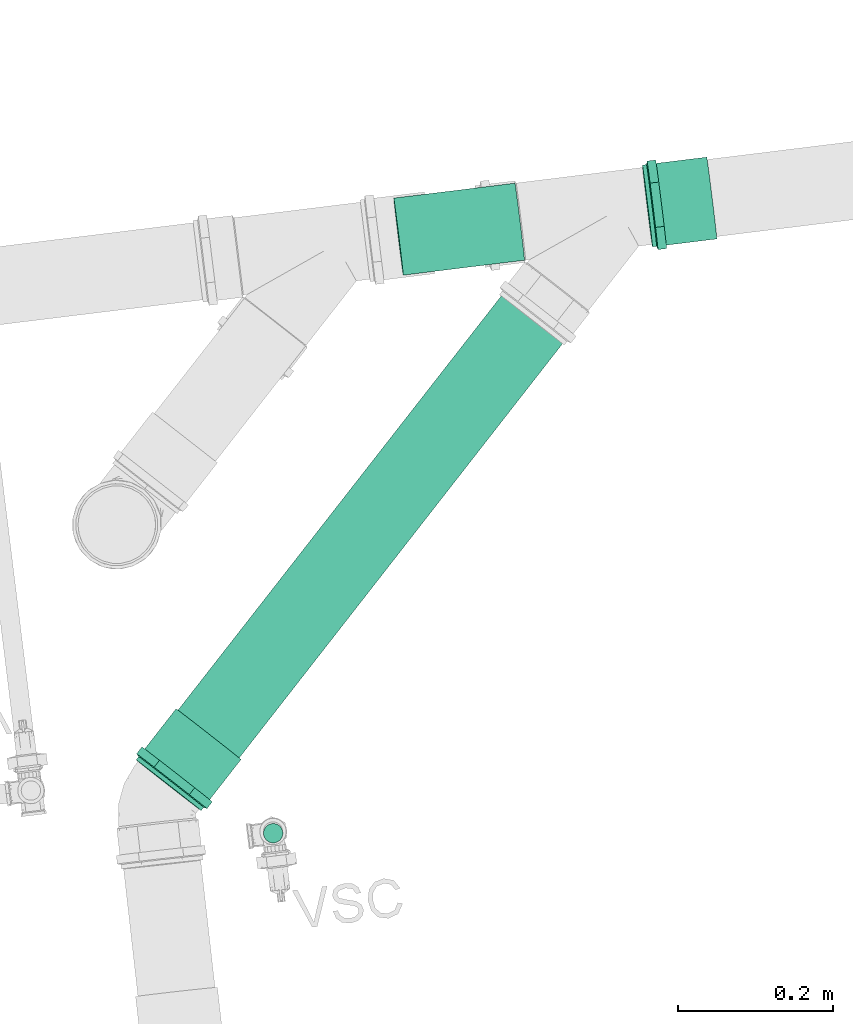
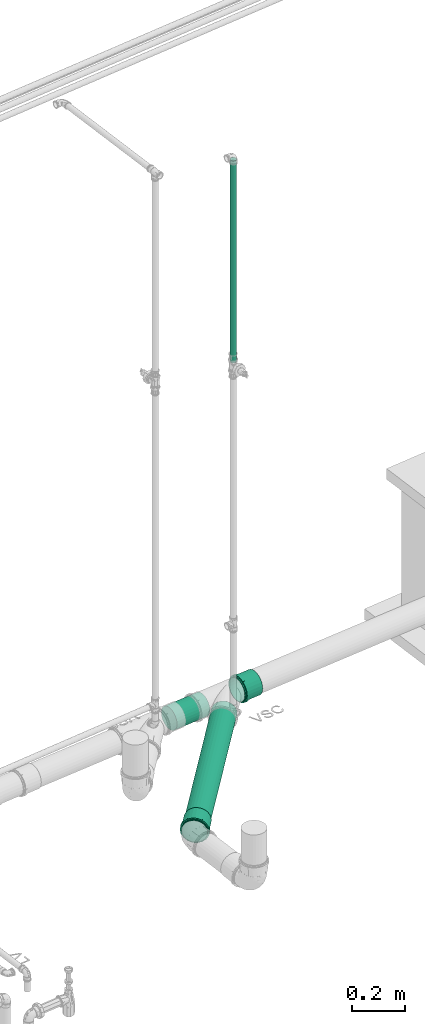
# One storey, part 30 of 97: 3 flow segments, 2 flow fittings.
"""IFC2X3 building model written with IfcOpenShell, lengths in centimetres."""

from ifc_helpers import new_model, entity, si_unit, converted_unit, derived_unit, direction, frame, frame_2d, origin, origin_2d_with_axis, place, context, subcontext, project, spatial, circle, extrude, faceted_brep, source, transform, mapped, material, type_object, type_shapes, element, save


model = new_model("IFC2X3")

# Units and contexts
model_context = context("Model", 3, precision=0.001, world=origin(), true_north=direction((6.12303176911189e-17, 1.0)))
body_context = subcontext(model_context, "Body", "Model", "MODEL_VIEW")
ifc_project = project(units=[si_unit("LENGTHUNIT", "METRE", prefix="CENTI"), si_unit("AREAUNIT", "SQUARE_METRE"), si_unit("VOLUMEUNIT", "CUBIC_METRE"), converted_unit("PLANEANGLEUNIT", "DEGREE", entity("IfcRatioMeasure", 0.0174532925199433), si_unit("PLANEANGLEUNIT", "RADIAN"), dimensions=[0, 0, 0, 0, 0, 0, 0]), si_unit("MASSUNIT", "GRAM", prefix="KILO"), derived_unit("MASSDENSITYUNIT", [(si_unit("MASSUNIT", "GRAM", prefix="KILO"), 1), (si_unit("LENGTHUNIT", "METRE"), -3)]), derived_unit("MOMENTOFINERTIAUNIT", [(si_unit("LENGTHUNIT", "METRE"), 4)]), si_unit("TIMEUNIT", "SECOND"), si_unit("FREQUENCYUNIT", "HERTZ"), si_unit("THERMODYNAMICTEMPERATUREUNIT", "DEGREE_CELSIUS"), derived_unit("THERMALTRANSMITTANCEUNIT", [(si_unit("MASSUNIT", "GRAM", prefix="KILO"), 1), (si_unit("THERMODYNAMICTEMPERATUREUNIT", "KELVIN"), -1), (si_unit("TIMEUNIT", "SECOND"), -3)]), derived_unit("VOLUMETRICFLOWRATEUNIT", [(si_unit("LENGTHUNIT", "METRE"), 3), (si_unit("TIMEUNIT", "SECOND"), -1)]), si_unit("ELECTRICCURRENTUNIT", "AMPERE"), si_unit("ELECTRICVOLTAGEUNIT", "VOLT"), si_unit("POWERUNIT", "WATT"), si_unit("FORCEUNIT", "NEWTON", prefix="KILO"), si_unit("ILLUMINANCEUNIT", "LUX"), si_unit("LUMINOUSFLUXUNIT", "LUMEN"), si_unit("LUMINOUSINTENSITYUNIT", "CANDELA"), derived_unit("USERDEFINED", [(si_unit("MASSUNIT", "GRAM", prefix="KILO"), -1), (si_unit("LENGTHUNIT", "METRE"), -2), (si_unit("TIMEUNIT", "SECOND"), 3), (si_unit("LUMINOUSFLUXUNIT", "LUMEN"), 1)]), derived_unit("LINEARVELOCITYUNIT", [(si_unit("LENGTHUNIT", "METRE"), 1), (si_unit("TIMEUNIT", "SECOND"), -1)]), si_unit("PRESSUREUNIT", "PASCAL"), derived_unit("USERDEFINED", [(si_unit("LENGTHUNIT", "METRE"), -2), (si_unit("MASSUNIT", "GRAM", prefix="KILO"), 1), (si_unit("TIMEUNIT", "SECOND"), -2)]), derived_unit("LINEARFORCEUNIT", [(si_unit("MASSUNIT", "GRAM", prefix="KILO"), 1), (si_unit("LENGTHUNIT", "METRE"), 1), (si_unit("TIMEUNIT", "SECOND"), -2), (si_unit("LENGTHUNIT", "METRE"), -1)]), derived_unit("PLANARFORCEUNIT", [(si_unit("MASSUNIT", "GRAM", prefix="KILO"), 1), (si_unit("LENGTHUNIT", "METRE"), 1), (si_unit("TIMEUNIT", "SECOND"), -2), (si_unit("LENGTHUNIT", "METRE"), -2)])], contexts=[model_context])

# Site, building, storey
site_placement = place(None, origin())
site = spatial("IfcSite", under=ifc_project, at=site_placement, Name="Default", CompositionType="ELEMENT")
building_placement = place(site_placement, origin())
building = spatial("IfcBuilding", under=site, at=building_placement, Name="HIDROSSANITÁRIO", CompositionType="ELEMENT")
storey_placement = place(building_placement, frame((0.0, 0.0, -260.0)))
storey = spatial("IfcBuildingStorey", under=building, at=storey_placement, Name="TÉRREO-HID", CompositionType="ELEMENT", Elevation=-260.0)

# Flow segments
pipe_segment_type_1 = type_object("IfcPipeSegmentType", Name="Tipos de tubos:Tubo Marrom - Água Fria - Soldável", PredefinedType="NOTDEFINED")
flow_segment_1_placement = place(storey_placement, origin())
element("IfcFlowSegment", 1, at=flow_segment_1_placement, inside=storey, type_object=pipe_segment_type_1, Name="Tipos de tubos:Tubo Marrom - Água Fria - Soldável", ObjectType="Tipos de tubos:Tubo Marrom - Água Fria - Soldável", context=body_context, shape_type="SweptSolid", body=[
    extrude(circle(Radius=1.25, at=origin_2d_with_axis()), frame((-1478.52027011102, 2914.10049835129, 182.0)), (0.0, 0.0, 1.0), 93.8488861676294),
])
pipe_segment_type_2 = type_object("IfcPipeSegmentType", Name="Tipos de tubos:Tubo - Esgoto - Série Normal", PredefinedType="NOTDEFINED")
flow_segment_2_placement = place(storey_placement, origin())
element("IfcFlowSegment", 2, at=flow_segment_2_placement, inside=storey, type_object=pipe_segment_type_2, Name="Tipos de tubos:Tubo - Esgoto - Série Normal", ObjectType="Tipos de tubos:Tubo - Esgoto - Série Normal", context=body_context, shape_type="SweptSolid", body=[
    extrude(circle(Radius=5.0, at=frame_2d((0.0, -5.41406493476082e-14), x_axis=(1.0, 0.0))), frame((-1491.98319893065, 2920.27324298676, -35.5733354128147), z_axis=(0.615247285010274, 0.788270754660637, -0.00999978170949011), x_axis=(0.788310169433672, -0.615278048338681, 0.0)), (0.0, 0.0, 1.0), 81.2844685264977),
])
flow_segment_3_placement = place(storey_placement, origin())
element("IfcFlowSegment", 3, at=flow_segment_3_placement, inside=storey, type_object=pipe_segment_type_2, Name="Tipos de tubos:Tubo - Esgoto - Série Normal", ObjectType="Tipos de tubos:Tubo - Esgoto - Série Normal", context=body_context, shape_type="SweptSolid", body=[
    extrude(circle(Radius=5.0, at=frame_2d((-4.2989625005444e-13, 5.29634664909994e-16), x_axis=(1.0, 0.0))), frame((-1446.77660190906, 2992.82907459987, -36.3544079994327), z_axis=(-0.992445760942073, -0.122276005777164, 0.00999949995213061), x_axis=(0.122282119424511, -0.992495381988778, 0.0)), (0.0, 0.0, 1.0), 15.732775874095),
])

# Flow fittings
ifc_material = material(Name="PVC Branco")
pipe_fitting_type = type_object("IfcPipeFittingType", Name="Luva Simples para Conexão - Serie Normal - Esgoto - MEP - Tigre:Standard", PredefinedType="NOTDEFINED", material=ifc_material)
shared_shape = source(origin(), body_context, "Body", "Brep", [
    faceted_brep([(1.77700000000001, 2.8725, -4.9753159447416), (1.77700000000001, 4.06232845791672, -4.06232845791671), (1.77700000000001, 2.65249999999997, -4.59426476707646), (1.77700000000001, 1.37303503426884, -5.12423650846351), (1.77700000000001, 1.48691541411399, -5.5492438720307), (1.77700000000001, 3.75120147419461, -3.75120147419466), (1.77700000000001, 4.9753159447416, -2.8725), (1.77700000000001, 4.59426476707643, -2.65250000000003), (1.77700000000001, 5.1242365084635, -1.37303503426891), (1.77700000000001, 5.5492438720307, -1.48691541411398), (1.77700000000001, 5.305, 0.0), (1.77700000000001, 5.745, 0.0), (1.77700000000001, 5.1242365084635, 1.3730350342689), (1.77700000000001, 5.54924387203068, 1.48691541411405), (1.77700000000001, 4.59426476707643, 2.65250000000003), (1.77700000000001, 4.97531594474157, 2.87250000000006), (1.77700000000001, 3.75120147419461, 3.75120147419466), (1.77700000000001, 4.06232845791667, 4.06232845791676), (1.77700000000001, 2.65249999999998, 4.59426476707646), (1.77700000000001, 2.87249999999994, 4.97531594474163), (1.77700000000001, 1.37303503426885, 5.12423650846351), (1.77700000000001, 1.48691541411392, 5.54924387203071), (1.77700000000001, 0.0, 5.305), (1.77700000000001, 0.0, 5.745), (1.77700000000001, -1.37303503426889, 5.1242365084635), (1.77700000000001, -1.48691541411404, 5.54924387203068), (1.77700000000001, -2.65250000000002, 4.59426476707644), (1.77700000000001, -2.87250000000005, 4.97531594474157), (1.77700000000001, -3.75120147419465, 3.75120147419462), (1.77700000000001, -4.06232845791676, 4.06232845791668), (1.77700000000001, -4.59426476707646, 2.65249999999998), (1.77700000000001, -4.97531594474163, 2.87249999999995), (1.77700000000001, -5.54924387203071, 1.48691541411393), (1.77700000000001, -5.12423650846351, 1.37303503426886), (1.77700000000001, -5.745, 0.0), (1.77700000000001, -5.305, 0.0), (1.77700000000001, -5.54924387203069, -1.486915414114), (1.77700000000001, -5.12423650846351, -1.37303503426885), (1.77700000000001, -4.97531594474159, -2.87250000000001), (1.77700000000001, -4.59426476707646, -2.65249999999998), (1.77700000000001, -4.06232845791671, -4.06232845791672), (1.77700000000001, -3.75120147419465, -3.75120147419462), (1.77700000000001, -2.87249999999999, -4.97531594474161), (1.77700000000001, -2.65250000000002, -4.59426476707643), (1.77700000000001, -1.48691541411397, -5.5492438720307), (1.77700000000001, -1.3730350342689, -5.1242365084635), (1.77700000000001, 0.0, -5.745), (1.77700000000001, 0.0, -5.305), (0.657000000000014, -1.93463887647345, 5.31665771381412), (0.657000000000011, -4.4007619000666, 3.69300957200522), (0.657000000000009, -4.89962626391, 2.82901737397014), (0.657000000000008, -5.39849062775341, 1.96502517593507), (0.657000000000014, -2.87216972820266, 4.97550661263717), (0.657000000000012, -3.63646581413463, 4.3342580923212), (0.657000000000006, -5.5717453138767, 0.982512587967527), (0.657000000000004, -5.745, 0.0), (0.657000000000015, -0.997108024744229, 5.65780881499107), (0.657000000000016, 0.998234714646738, 5.65761013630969), (0.657000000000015, 0.0005633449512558, 5.65770947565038), (0.657000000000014, 3.63732887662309, 4.33353383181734), (0.657000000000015, 1.93569761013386, 5.31627233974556), (0.657000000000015, 2.87316050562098, 4.97493454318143), (0.65700000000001, 5.39888184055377, 1.96395006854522), (0.657000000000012, 4.90018954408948, 2.82804159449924), (0.657000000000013, 4.40149724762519, 3.69213312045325), (0.657000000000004, 5.745, 0.0), (0.656999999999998, 4.40149724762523, -3.6921331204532), (0.657, 4.90018954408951, -2.82804159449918), (0.657000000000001, 5.39888184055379, -1.96395006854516), (0.656999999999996, 2.87316050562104, -4.9749345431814), (0.656999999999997, 3.63732887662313, -4.3335338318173), (0.656999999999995, 1.93569761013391, -5.31627233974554), (0.656999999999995, 0.998234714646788, -5.65761013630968), (0.656999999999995, -0.997108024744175, -5.65780881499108), (0.656999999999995, 0.000563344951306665, -5.65770947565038), (0.656999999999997, -3.6364658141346, -4.33425809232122), (0.656999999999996, -2.87216972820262, -4.9755066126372), (0.656999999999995, -1.9346388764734, -5.31665771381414), (0.657000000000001, -5.39849062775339, -1.96502517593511), (0.657, -4.89962626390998, -2.82901737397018), (0.656999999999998, -4.40076190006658, -3.69300957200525), (0.657000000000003, -5.5717453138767, -0.982512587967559), (8.35200000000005, 2.6525, -4.59426476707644), (8.35200000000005, 3.75120147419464, -3.75120147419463), (8.35200000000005, 2.49999999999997, -4.33012701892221), (8.35200000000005, 1.29409522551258, -4.82962913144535), (8.35200000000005, 1.37303503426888, -5.1242365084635), (8.35200000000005, 3.53553390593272, -3.53553390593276), (8.35200000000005, 4.59426476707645, -2.6525), (8.35200000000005, 4.33012701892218, -2.50000000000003), (8.35200000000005, 4.82962913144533, -1.29409522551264), (8.35200000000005, 5.12423650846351, -1.37303503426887), (8.35200000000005, 5.0, 0.0), (8.35200000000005, 5.305, 0.0), (8.35200000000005, 4.82962913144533, 1.29409522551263), (8.35200000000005, 5.12423650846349, 1.37303503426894), (8.35200000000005, 4.33012701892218, 2.50000000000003), (8.35200000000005, 4.59426476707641, 2.65250000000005), (8.35200000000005, 3.53553390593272, 3.53553390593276), (8.35200000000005, 3.75120147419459, 3.75120147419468), (8.35200000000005, 2.49999999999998, 4.33012701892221), (8.35200000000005, 2.65249999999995, 4.59426476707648), (8.35200000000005, 1.29409522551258, 4.82962913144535), (8.35200000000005, 1.37303503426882, 5.12423650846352), (8.35200000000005, 0.0, 5.0), (8.35200000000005, 0.0, 5.305), (8.35200000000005, -1.29409522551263, 4.82962913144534), (8.35200000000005, -1.37303503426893, 5.12423650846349), (8.35200000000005, -2.50000000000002, 4.33012701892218), (8.35200000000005, -2.65250000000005, 4.59426476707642), (8.35200000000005, -3.53553390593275, 3.53553390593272), (8.35200000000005, -3.75120147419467, 3.7512014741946), (8.35200000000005, -4.3301270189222, 2.49999999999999), (8.35200000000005, -4.59426476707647, 2.65249999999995), (8.35200000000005, -5.12423650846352, 1.37303503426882), (8.35200000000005, -4.82962913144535, 1.29409522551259), (8.35200000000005, -5.305, 0.0), (8.35200000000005, -5.0, 0.0), (8.35200000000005, -5.1242365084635, -1.37303503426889), (8.35200000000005, -4.82962913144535, -1.29409522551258), (8.35200000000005, -4.59426476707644, -2.65250000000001), (8.35200000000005, -4.3301270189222, -2.49999999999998), (8.35200000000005, -3.75120147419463, -3.75120147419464), (8.35200000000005, -3.53553390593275, -3.53553390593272), (8.35200000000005, -2.65249999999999, -4.59426476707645), (8.35200000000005, -2.50000000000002, -4.33012701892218), (8.35200000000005, -1.37303503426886, -5.12423650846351), (8.35200000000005, -1.29409522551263, -4.82962913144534), (8.35200000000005, 0.0, -5.305), (8.35200000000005, 0.0, -5.0), (0.0, 2.49999999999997, -4.33012701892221), (0.0, 3.75120147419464, -3.75120147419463), (0.0, 2.6525, -4.59426476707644), (0.0, 1.29409522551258, -4.82962913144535), (0.0, 3.53553390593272, -3.53553390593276), (0.0, 4.59426476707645, -2.6525), (0.0, 4.33012701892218, -2.50000000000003), (0.0, 4.82962913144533, -1.29409522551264), (0.0, 5.12423650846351, -1.37303503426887), (0.0, 5.0, 0.0), (0.0, 5.305, 0.0), (0.0, 4.82962913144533, 1.29409522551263), (0.0, 5.12423650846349, 1.37303503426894), (0.0, 4.33012701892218, 2.50000000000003), (0.0, 4.59426476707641, 2.65250000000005), (0.0, 3.53553390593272, 3.53553390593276), (0.0, 3.75120147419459, 3.75120147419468), (0.0, 2.49999999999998, 4.33012701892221), (0.0, 2.65249999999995, 4.59426476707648), (0.0, 1.29409522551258, 4.82962913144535), (0.0, 1.37303503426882, 5.12423650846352), (0.0, 0.0, 5.0), (0.0, 0.0, 5.305), (0.0, -1.29409522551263, 4.82962913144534), (0.0, -1.37303503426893, 5.12423650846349), (0.0, -2.50000000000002, 4.33012701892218), (0.0, -2.65250000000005, 4.59426476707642), (0.0, -3.53553390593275, 3.53553390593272), (0.0, -3.75120147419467, 3.7512014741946), (0.0, -4.3301270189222, 2.49999999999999), (0.0, -4.59426476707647, 2.65249999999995), (0.0, -5.12423650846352, 1.37303503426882), (0.0, -4.82962913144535, 1.29409522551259), (0.0, -5.305, 0.0), (0.0, -5.0, 0.0), (0.0, -5.1242365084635, -1.37303503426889), (0.0, -4.82962913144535, -1.29409522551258), (0.0, -4.59426476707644, -2.65250000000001), (0.0, -4.3301270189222, -2.49999999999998), (0.0, -3.75120147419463, -3.75120147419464), (0.0, -3.53553390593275, -3.53553390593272), (0.0, -2.65249999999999, -4.59426476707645), (0.0, -2.50000000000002, -4.33012701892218), (0.0, -1.37303503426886, -5.12423650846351), (0.0, -1.29409522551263, -4.82962913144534), (0.0, 0.0, -5.305), (0.0, 0.0, -5.0), (0.0, 1.37303503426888, -5.1242365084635), (0.537000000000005, -5.305, 0.0), (0.537000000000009, -4.98507989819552, 1.81438788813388), (0.537000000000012, -4.06390540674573, 3.4099410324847), (0.537000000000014, -2.65258010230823, 4.59421851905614), (0.537000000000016, -0.921325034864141, 5.22438371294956), (0.537000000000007, 5.1449924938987, 0.907324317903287), (0.537000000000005, 5.305, 0.0), (0.537000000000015, 2.65233979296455, 4.59435725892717), (0.537000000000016, 0.921051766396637, 5.22443189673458), (0.537000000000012, 4.06372704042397, 3.41015359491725), (0.537000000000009, 4.9849849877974, 1.81464863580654), (0.537000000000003, 5.14499249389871, -0.907324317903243), (0.537000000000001, 4.98498498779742, -1.81464863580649), (0.536999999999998, 4.063727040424, -3.41015359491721), (0.536999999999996, 2.6523397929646, -4.59435725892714), (0.536999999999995, 0.921051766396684, -5.22443189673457), (0.536999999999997, -2.6525801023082, -4.59421851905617), (0.536999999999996, -0.921325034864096, -5.22438371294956), (0.536999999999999, -4.0639054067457, -3.40994103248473), (0.537000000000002, -4.98507989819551, -1.81438788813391), (5.0, -5.0, 0.0), (5.0, 5.0, 0.0)], [[[0, 1, 2]], [[0, 2, 3]], [[3, 4, 0]], [[2, 1, 5]], [[6, 5, 1]], [[5, 6, 7]], [[7, 6, 8]], [[9, 8, 6]], [[9, 10, 8]], [[10, 9, 11]], [[12, 10, 11]], [[11, 13, 12]], [[12, 13, 14]], [[15, 14, 13]], [[14, 15, 16]], [[16, 15, 17]], [[18, 16, 17]], [[17, 19, 18]], [[18, 19, 20]], [[21, 20, 19]], [[20, 21, 22]], [[22, 21, 23]], [[22, 23, 24]], [[24, 23, 25]], [[24, 25, 26]], [[27, 26, 25]], [[27, 28, 26]], [[28, 27, 29]], [[29, 30, 28]], [[31, 30, 29]], [[30, 31, 32]], [[32, 33, 30]], [[34, 33, 32]], [[34, 35, 33]], [[36, 35, 34]], [[36, 37, 35]], [[37, 36, 38]], [[38, 39, 37]], [[39, 38, 40]], [[39, 40, 41]], [[40, 42, 41]], [[41, 42, 43]], [[43, 42, 44]], [[44, 45, 43]], [[46, 45, 44]], [[4, 47, 46]], [[46, 47, 45]], [[4, 3, 47]], [[48, 27, 25]], [[31, 29, 49]], [[31, 49, 50, 51]], [[52, 53, 27]], [[32, 51, 54]], [[54, 55, 34]], [[54, 34, 32]], [[25, 56, 48]], [[49, 29, 53]], [[23, 57, 58, 56]], [[59, 19, 17]], [[27, 53, 29]], [[48, 52, 27]], [[31, 51, 32]], [[57, 23, 21]], [[60, 19, 61]], [[15, 62, 63, 64]], [[19, 60, 21]], [[15, 13, 62]], [[17, 64, 59]], [[57, 21, 60]], [[23, 56, 25]], [[15, 64, 17]], [[13, 65, 62]], [[13, 11, 65]], [[59, 61, 19]], [[65, 11, 9]], [[6, 1, 66]], [[6, 66, 67, 68]], [[69, 70, 0]], [[68, 65, 9]], [[71, 69, 0]], [[71, 0, 4]], [[4, 72, 71]], [[66, 1, 70]], [[46, 73, 74, 72]], [[75, 76, 42]], [[0, 70, 1]], [[75, 42, 40]], [[6, 68, 9]], [[73, 46, 44]], [[77, 42, 76]], [[38, 78, 79, 80]], [[42, 77, 44]], [[38, 36, 78]], [[40, 80, 75]], [[73, 44, 77]], [[46, 72, 4]], [[38, 80, 40]], [[81, 78, 36]], [[55, 81, 34]], [[34, 81, 36]], [[82, 83, 84]], [[82, 84, 85]], [[85, 86, 82]], [[84, 83, 87]], [[88, 87, 83]], [[87, 88, 89]], [[89, 88, 90]], [[91, 90, 88]], [[91, 92, 90]], [[92, 91, 93]], [[94, 92, 93]], [[93, 95, 94]], [[94, 95, 96]], [[97, 96, 95]], [[96, 97, 98]], [[98, 97, 99]], [[100, 98, 99]], [[99, 101, 100]], [[100, 101, 102]], [[103, 102, 101]], [[102, 103, 104]], [[104, 103, 105]], [[104, 105, 106]], [[106, 105, 107]], [[106, 107, 108]], [[109, 108, 107]], [[110, 108, 109]], [[110, 109, 111]], [[111, 112, 110]], [[113, 112, 111]], [[112, 113, 114]], [[114, 115, 112]], [[116, 115, 114]], [[116, 117, 115]], [[118, 117, 116]], [[118, 119, 117]], [[119, 118, 120]], [[120, 121, 119]], [[121, 120, 122]], [[121, 122, 123]], [[122, 124, 123]], [[125, 123, 124]], [[125, 124, 126]], [[126, 127, 125]], [[128, 127, 126]], [[86, 129, 128]], [[128, 129, 127]], [[86, 85, 129]], [[130, 131, 132]], [[133, 130, 132]], [[134, 131, 130]], [[131, 134, 135]], [[136, 135, 134]], [[137, 135, 136]], [[135, 137, 138]], [[137, 139, 138]], [[140, 138, 139]], [[140, 139, 141]], [[141, 142, 140]], [[143, 142, 141]], [[142, 143, 144]], [[145, 144, 143]], [[146, 144, 145]], [[146, 145, 147]], [[147, 148, 146]], [[149, 148, 147]], [[148, 149, 150]], [[151, 150, 149]], [[152, 150, 151]], [[153, 152, 151]], [[154, 152, 153]], [[155, 154, 153]], [[154, 155, 156]], [[156, 155, 157]], [[158, 156, 157]], [[157, 159, 158]], [[158, 159, 160]], [[161, 160, 159]], [[159, 162, 161]], [[161, 162, 163]], [[162, 164, 163]], [[163, 164, 165]], [[164, 166, 165]], [[167, 165, 166]], [[166, 168, 167]], [[169, 167, 168]], [[170, 169, 168]], [[170, 171, 169]], [[171, 170, 172]], [[173, 171, 172]], [[172, 174, 173]], [[173, 174, 175]], [[174, 176, 175]], [[176, 133, 177]], [[175, 176, 177]], [[132, 177, 133]], [[161, 178, 179]], [[158, 180, 181]], [[179, 180, 160]], [[181, 182, 154]], [[179, 160, 161]], [[161, 163, 178]], [[35, 116, 114, 33]], [[183, 184, 140]], [[181, 156, 158]], [[158, 160, 180]], [[181, 154, 156]], [[182, 152, 154]], [[183, 140, 142]], [[185, 150, 186]], [[187, 146, 185]], [[142, 188, 183]], [[187, 188, 144]], [[185, 148, 150]], [[150, 152, 186]], [[187, 144, 146]], [[146, 148, 185]], [[188, 142, 144]], [[186, 152, 182]], [[189, 190, 138]], [[131, 191, 192]], [[190, 191, 135]], [[192, 193, 177]], [[190, 135, 138]], [[184, 189, 140]], [[192, 132, 131]], [[131, 135, 191]], [[192, 177, 132]], [[193, 175, 177]], [[140, 189, 138]], [[194, 173, 195]], [[196, 169, 194]], [[165, 197, 178]], [[196, 197, 167]], [[165, 178, 163]], [[35, 37, 118, 116]], [[194, 171, 173]], [[173, 175, 195]], [[196, 167, 169]], [[169, 171, 194]], [[197, 165, 167]], [[195, 175, 193]], [[115, 117, 198, 164, 162]], [[155, 108, 110, 157]], [[110, 112, 159, 157]], [[112, 115, 162, 159]], [[106, 108, 155, 153]], [[153, 151, 104, 106]], [[102, 104, 151, 149]], [[102, 149, 147, 100]], [[141, 94, 96, 143]], [[96, 98, 145, 143]], [[98, 100, 147, 145]], [[92, 94, 141, 139, 199]], [[199, 139, 137, 90, 92]], [[87, 89, 136, 134]], [[134, 130, 84, 87]], [[89, 90, 137, 136]], [[85, 84, 130, 133]], [[133, 176, 129, 85]], [[127, 129, 176, 174]], [[127, 174, 172, 125]], [[166, 119, 121, 168]], [[121, 123, 170, 168]], [[123, 125, 172, 170]], [[117, 119, 166, 164, 198]], [[81, 178, 197]], [[190, 68, 67]], [[194, 75, 196]], [[193, 72, 74]], [[195, 77, 194]], [[79, 197, 196]], [[81, 55, 178]], [[192, 69, 71]], [[79, 78, 197]], [[194, 77, 76]], [[191, 66, 70]], [[80, 196, 75]], [[68, 190, 189]], [[74, 195, 193]], [[192, 71, 193]], [[190, 67, 191]], [[70, 192, 191]], [[65, 189, 184]], [[195, 73, 77]], [[193, 71, 72]], [[197, 78, 81]], [[191, 67, 66]], [[189, 65, 68]], [[196, 80, 79]], [[70, 69, 192]], [[194, 76, 75]], [[73, 195, 74]], [[65, 183, 62]], [[48, 56, 182]], [[58, 182, 56]], [[54, 51, 179]], [[59, 185, 61]], [[60, 186, 57]], [[53, 52, 181]], [[63, 187, 64]], [[58, 57, 186]], [[187, 63, 188]], [[186, 60, 185]], [[50, 49, 180]], [[185, 59, 187]], [[59, 64, 187]], [[182, 58, 186]], [[50, 179, 51]], [[54, 178, 55]], [[53, 180, 49]], [[63, 62, 188]], [[181, 48, 182]], [[183, 65, 184]], [[179, 50, 180]], [[178, 54, 179]], [[183, 188, 62]], [[180, 53, 181]], [[60, 61, 185]], [[48, 181, 52]], [[30, 33, 114, 113]], [[26, 28, 111, 109]], [[113, 111, 28, 30]], [[107, 24, 26, 109]], [[107, 105, 22, 24]], [[18, 20, 103, 101]], [[99, 16, 18, 101]], [[12, 14, 97, 95]], [[99, 97, 14, 16]], [[10, 12, 95, 93]], [[103, 20, 22, 105]], [[91, 8, 10, 93]], [[88, 7, 8, 91]], [[82, 86, 3, 2]], [[83, 5, 7, 88]], [[2, 5, 83, 82]], [[86, 128, 47, 3]], [[43, 45, 126, 124]], [[122, 41, 43, 124]], [[37, 39, 120, 118]], [[122, 120, 39, 41]], [[126, 45, 47, 128]]]),
])
type_shapes(pipe_fitting_type, [shared_shape])
for number, where, z_axis, x_axis, name in (
    (4, (-1430.34269255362, 2994.85384297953, -36.5199897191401), (-0.00984912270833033, -0.00183419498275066, -0.999949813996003), (0.992445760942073, 0.122276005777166, -0.00999949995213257), "Luva Simples para Conexão - Serie Normal - Esgoto - MEP - Tigre:Standard"),
    (5, (-1491.98319893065, 2920.27324298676, -35.5733354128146), (-0.000605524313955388, 0.00999407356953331, 0.999949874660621), (0.615260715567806, 0.788287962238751, -0.00750602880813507), "Luva Simples para Conexão - Serie Normal - Esgoto - MEP - Tigre:Standard"),
):
    element("IfcFlowFitting", number, at=place(storey_placement, frame(where, z_axis=z_axis, x_axis=x_axis)), inside=storey, type_object=pipe_fitting_type, material=ifc_material, Name=name, ObjectType="Luva Simples para Conexão - Serie Normal - Esgoto - MEP - Tigre:Standard", context=body_context, shape_type="MappedRepresentation", body=[
        mapped(shared_shape, transform((0.0, 0.0, 0.0), scale=1.0)),
    ])

save(model, "model.ifc")
